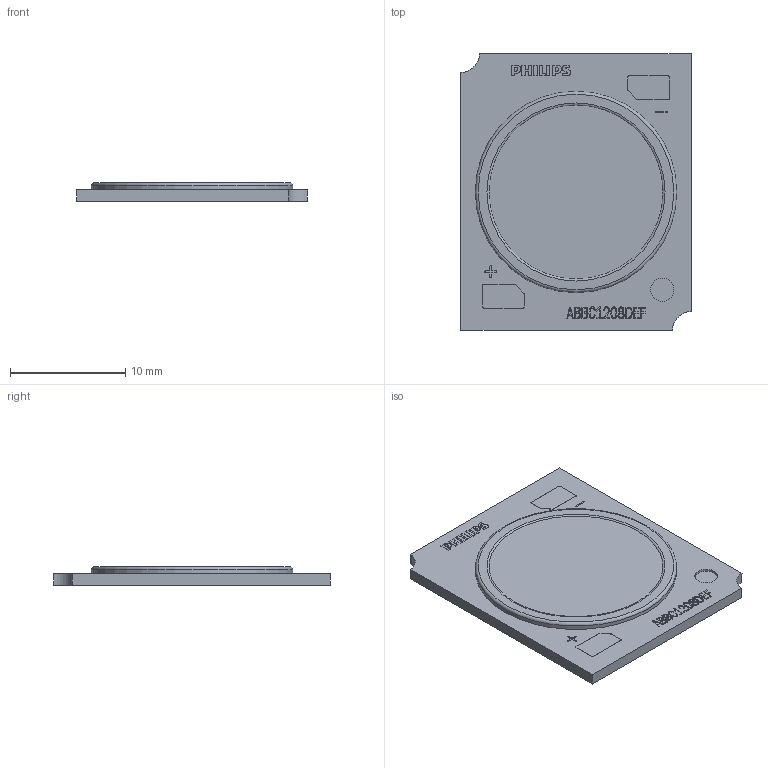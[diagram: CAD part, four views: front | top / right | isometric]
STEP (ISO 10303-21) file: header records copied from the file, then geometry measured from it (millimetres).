
FILE_DESCRIPTION(/* description */ (''),/* implementation_level */ '2;1');
FILE_NAME(/* name */ 'G7 HE+ 1208.stp',/* time_stamp */ '2023-03-14T18:13:35+08:00',/* author */ (''),/* organization */ (''),/* preprocessor_version */ 'ST-DEVELOPER v16',/* originating_system */ 'SIEMENS PLM Software NX 10.0',/* authorisation */ '');
FILE_SCHEMA (('AUTOMOTIVE_DESIGN { 1 0 10303 214 3 1 1 1 }'));
Length unit declared in the file: millimetre
Products named in the file (1): 31003E3C1351hwok
Bounding box: 20 x 24 x 1.6 mm (x, y, z)
Volume: 605.7 mm3; surface area: 1069.4 mm2
Topology: 1 solids, 1 shells, 451 faces, 1235 edges, 823 vertices
Faces by surface type: plane 392, extrusion 30, cylinder 27, torus 2
Full cylindrical faces by diameter (mm): 17.5 x1
Entity records: 15049 total; most frequent: CARTESIAN_POINT 3689, ORIENTED_EDGE 2464, DIRECTION 1983, EDGE_CURVE 1232, VECTOR 1025, LINE 995, VERTEX_POINT 823, EDGE_LOOP 491
